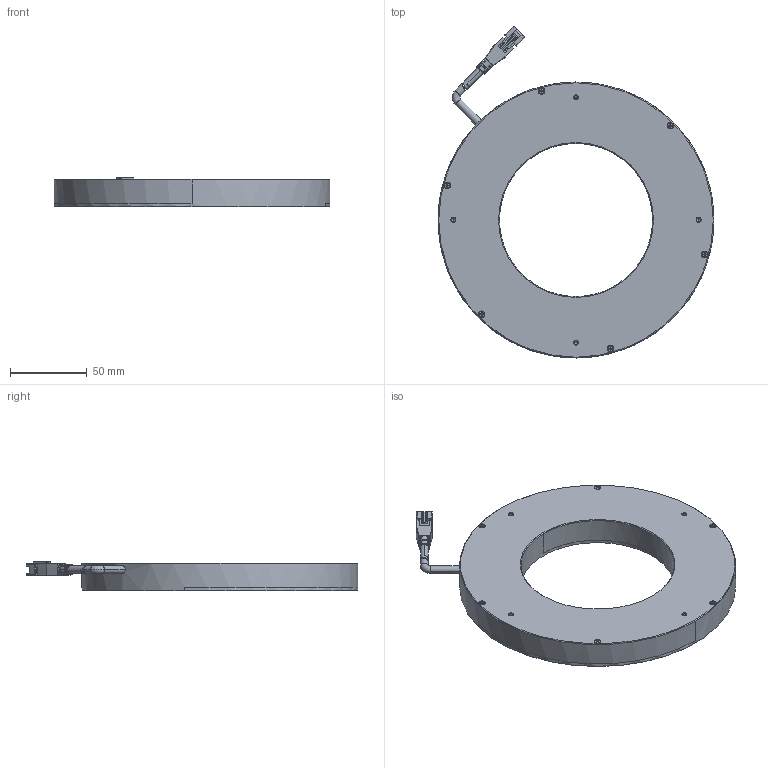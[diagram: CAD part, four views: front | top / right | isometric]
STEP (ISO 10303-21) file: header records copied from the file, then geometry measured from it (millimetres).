
FILE_DESCRIPTION((''),'2;1');
FILE_NAME('MV-LRDS-180-90-X_ASM','2023-09-15T15:07:51',('qiaoxuan5'),(''),'CREO PARAMETRIC BY PTC INC, 2020044','CREO PARAMETRIC BY PTC INC, 2020044','');
FILE_SCHEMA(('CONFIG_CONTROL_DESIGN'));
Length unit declared in the file: millimetre
Products named in the file (1): MV-LRDS-180-90-X_ASM
Bounding box: 180 x 216.51 x 19.2 mm (x, y, z)
Volume: 302983.2 mm3; surface area: 91321.3 mm2
Topology: 2 solids, 14 shells, 598 faces, 1473 edges, 898 vertices
Faces by surface type: plane 314, cylinder 170, cone 74, torus 22, sphere 8, bspline 8, extrusion 2
Entity records: 18021 total; most frequent: CARTESIAN_POINT 3868, DIRECTION 2993, ORIENTED_EDGE 2890, EDGE_CURVE 1445, AXIS2_PLACEMENT_3D 1051, VERTEX_POINT 898, VECTOR 891, LINE 889
